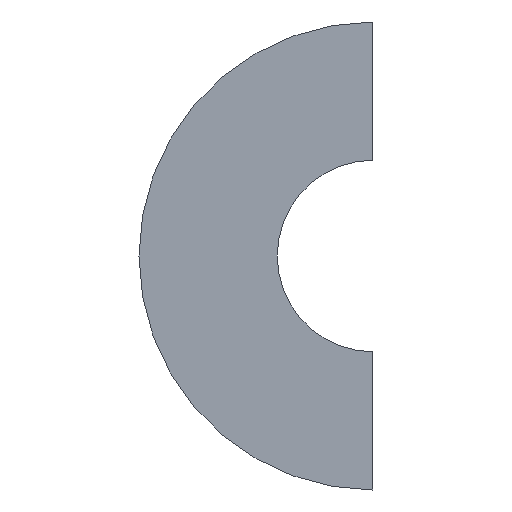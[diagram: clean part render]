
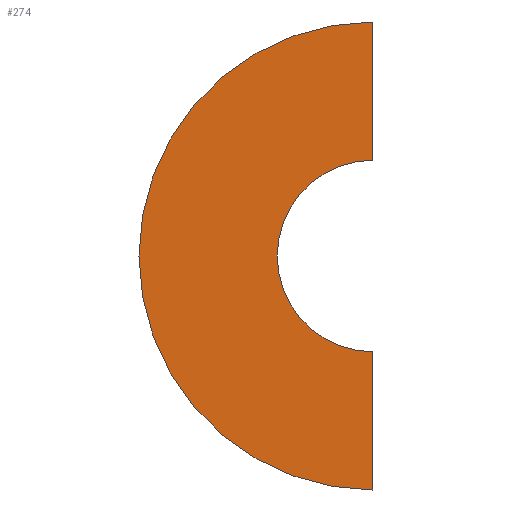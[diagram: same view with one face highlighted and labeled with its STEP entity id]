
A CAD part, front view. The second image highlights one B-rep face of the part: STEP entity #274.
In plain terms, the highlighted planar face has unit normal (0, -1, 0).
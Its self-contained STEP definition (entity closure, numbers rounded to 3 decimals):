
#73 = VERTEX_POINT('',#74);
#74 = CARTESIAN_POINT('',(190.,-2.,41.));
#80 = EDGE_CURVE('',#73,#81,#83,.T.);
#81 = VERTEX_POINT('',#82);
#82 = CARTESIAN_POINT('',(190.,-2.,34.5));
#83 = LINE('',#84,#85);
#84 = CARTESIAN_POINT('',(190.,-2.,24.));
#85 = VECTOR('',#86,1.);
#86 = DIRECTION('',(0.,0.,-1.));
#177 = VERTEX_POINT('',#178);
#178 = CARTESIAN_POINT('',(190.,-2.,25.5));
#184 = EDGE_CURVE('',#177,#185,#187,.T.);
#185 = VERTEX_POINT('',#186);
#186 = CARTESIAN_POINT('',(190.,-2.,19.));
#187 = LINE('',#188,#189);
#188 = CARTESIAN_POINT('',(190.,-2.,24.));
#189 = VECTOR('',#190,1.);
#190 = DIRECTION('',(0.,0.,-1.));
#260 = EDGE_CURVE('',#177,#81,#261,.T.);
#261 = CIRCLE('',#262,4.5);
#262 = AXIS2_PLACEMENT_3D('',#263,#264,#265);
#263 = CARTESIAN_POINT('',(190.,-2.,30.));
#264 = DIRECTION('',(0.,1.,0.));
#265 = DIRECTION('',(0.,0.,1.));
#274 = ADVANCED_FACE('',(#275),#287,.F.);
#275 = FACE_BOUND('',#276,.F.);
#276 = EDGE_LOOP('',(#277,#284,#285,#286));
#277 = ORIENTED_EDGE('',*,*,#278,.T.);
#278 = EDGE_CURVE('',#185,#73,#279,.T.);
#279 = CIRCLE('',#280,11.);
#280 = AXIS2_PLACEMENT_3D('',#281,#282,#283);
#281 = CARTESIAN_POINT('',(190.,-2.,30.));
#282 = DIRECTION('',(0.,1.,0.));
#283 = DIRECTION('',(0.,0.,1.));
#284 = ORIENTED_EDGE('',*,*,#80,.T.);
#285 = ORIENTED_EDGE('',*,*,#260,.F.);
#286 = ORIENTED_EDGE('',*,*,#184,.T.);
#287 = PLANE('',#288);
#288 = AXIS2_PLACEMENT_3D('',#289,#290,#291);
#289 = CARTESIAN_POINT('',(190.,-2.,30.));
#290 = DIRECTION('',(0.,1.,0.));
#291 = DIRECTION('',(0.,0.,1.));
